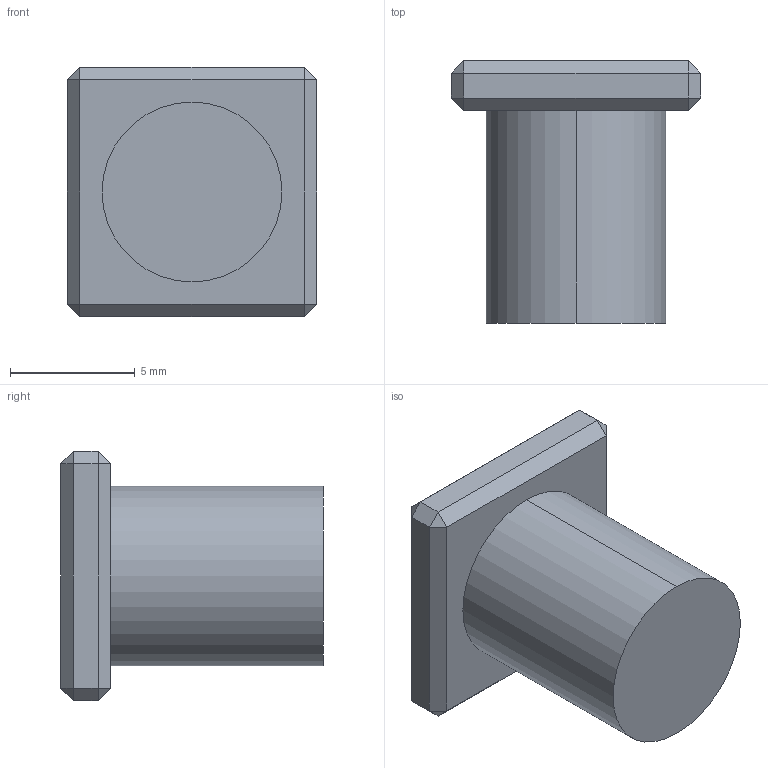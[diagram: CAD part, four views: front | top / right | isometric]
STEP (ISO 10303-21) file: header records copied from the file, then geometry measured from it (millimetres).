
FILE_DESCRIPTION (( 'STEP AP203' ), '1' );
FILE_NAME ('20200818.1-KMC50_CAP_WEB.STEP', '2020-08-19T11:03:15', ( '' ), ( '' ), 'SwSTEP 2.0', 'SolidWorks 2018', '' );
FILE_SCHEMA (( 'CONFIG_CONTROL_DESIGN' ));
Length unit declared in the file: millimetre
Products named in the file (1): 20200818.1-KMC50_CAP_WEB
Bounding box: 10 x 10.5 x 10 mm (x, y, z)
Volume: 535.7 mm3; surface area: 445.7 mm2
Topology: 1 solids, 1 shells, 29 faces, 54 edges, 28 vertices
Faces by surface type: plane 27, cylinder 2
Entity records: 757 total; most frequent: DIRECTION 118, CARTESIAN_POINT 112, ORIENTED_EDGE 108, EDGE_CURVE 54, VECTOR 50, LINE 50, AXIS2_PLACEMENT_3D 34, EDGE_LOOP 30
